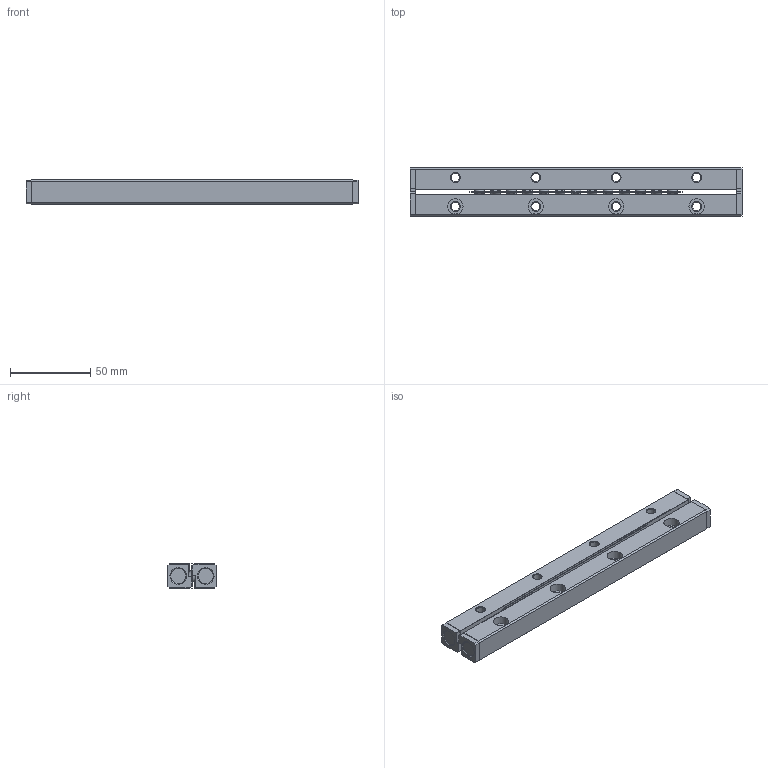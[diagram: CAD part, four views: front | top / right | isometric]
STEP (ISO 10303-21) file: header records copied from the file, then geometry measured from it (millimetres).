
FILE_DESCRIPTION(/* description */ ('Unknown'),/* implementation_level */ '2;1');
FILE_NAME(/* name */ 'VR6-200x13Z',/* time_stamp */ '2025-06-12T09:18:06+08:00',/* author */ ('Unknown'),/* organization */ ('Unknown'),/* preprocessor_version */ 'ST-DEVELOPER v18.102',/* originating_system */ 'Solid Edge',/* authorisation */ 'Unknown');
FILE_SCHEMA (('AUTOMOTIVE_DESIGN {1 0 10303 214 3 1 1}'));
Length unit declared in the file: millimetre
Products named in the file (3): VR6-200x13Z; VR6-200_13Z Roller guide; VR6-200_13Z Roller cage
Assembly tree (3 placements, depth 2):
  VR6-200x13Z
    VR6-200_13Z Roller guide  x2
    VR6-200_13Z Roller cage
Bounding box: 206.4 x 30 x 15 mm (x, y, z)
Volume: 78687.4 mm3; surface area: 32180.6 mm2
Topology: 3 solids, 3 shells, 271 faces, 709 edges, 456 vertices
Faces by surface type: plane 196, cone 46, cylinder 29
Full cylindrical faces by diameter (mm): 5.2 x8, 6 x13, 9.5 x8
Entity records: 6478 total; most frequent: CARTESIAN_POINT 1093, DIRECTION 1075, ORIENTED_EDGE 1022, EDGE_CURVE 511, LINE 379, VECTOR 379, VERTEX_POINT 366, AXIS2_PLACEMENT_3D 348
